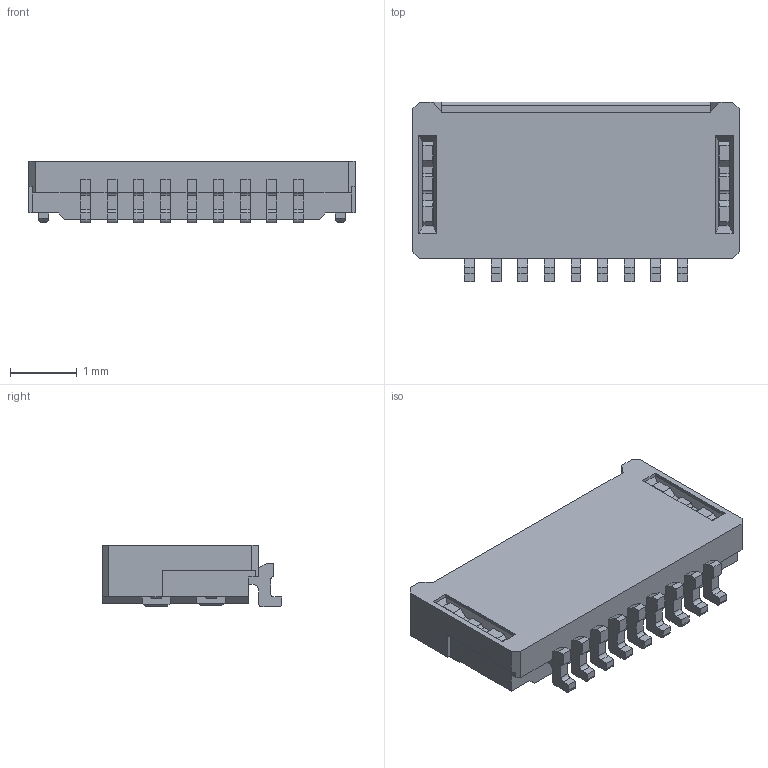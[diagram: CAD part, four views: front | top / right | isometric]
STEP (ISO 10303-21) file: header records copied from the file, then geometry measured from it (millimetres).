
FILE_DESCRIPTION (( 'STEP AP214' ), '1' );
FILE_NAME ('04_6824_609_000_846+.STEP', '2017-07-25T07:24:57', ( 'Asmin' ), ( '' ), 'SwSTEP 2.0', 'SolidWorks 2014', '' );
FILE_SCHEMA (( 'AUTOMOTIVE_DESIGN' ));
Length unit declared in the file: millimetre
Products named in the file (1): 04_6824_609_000_846+
Bounding box: 4.9 x 2.7 x 0.93 mm (x, y, z)
Volume: 6.9 mm3; surface area: 57.6 mm2
Topology: 1 solids, 1 shells, 283 faces, 821 edges, 542 vertices
Faces by surface type: plane 225, cylinder 58
Entity records: 12010 total; most frequent: CARTESIAN_POINT 1653, ORIENTED_EDGE 1642, DIRECTION 1501, EDGE_CURVE 821, LINE 705, VECTOR 705, VERTEX_POINT 542, AXIS2_PLACEMENT_3D 398
